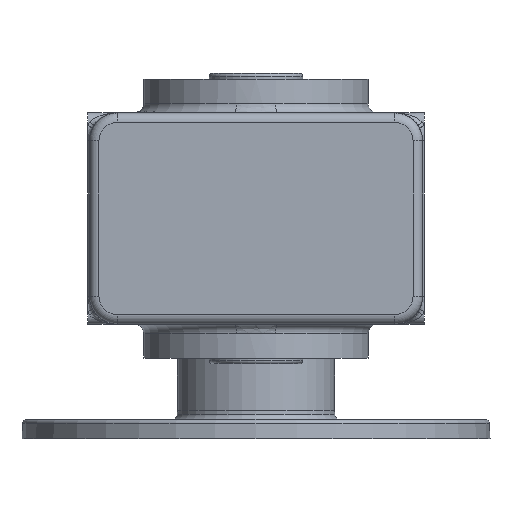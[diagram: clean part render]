
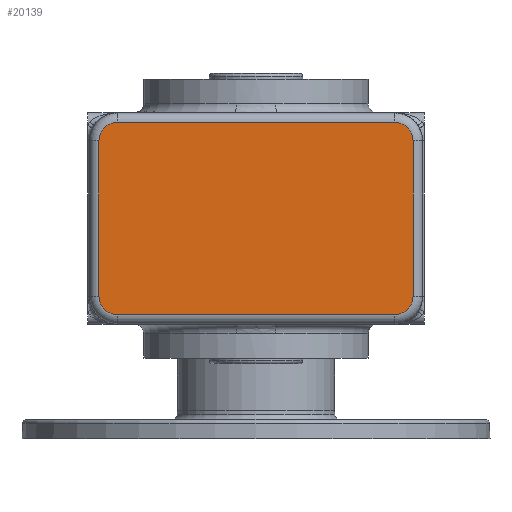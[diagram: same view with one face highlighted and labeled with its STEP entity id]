
A CAD part, front view. The second image highlights one B-rep face of the part: STEP entity #20139.
In plain terms, the highlighted planar face has unit normal (0, -1, 0).
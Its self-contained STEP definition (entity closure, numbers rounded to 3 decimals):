
#12364 = VERTEX_POINT ( 'NONE', #44482 ) ;
#12365 = EDGE_CURVE ( 'NONE', #20090, #12370, #44481, .T. ) ;
#12367 = ORIENTED_EDGE ( 'NONE', *, *, #12368, .T. ) ;
#12368 = EDGE_CURVE ( 'NONE', #12370, #12364, #44534, .T. ) ;
#12370 = VERTEX_POINT ( 'NONE', #44530 ) ;
#12372 = ORIENTED_EDGE ( 'NONE', *, *, #12365, .T. ) ;
#12385 = EDGE_CURVE ( 'NONE', #15885, #15865, #44572, .T. ) ;
#12387 = EDGE_CURVE ( 'NONE', #15865, #20035, #44568, .T. ) ;
#12389 = EDGE_LOOP ( 'NONE', ( #20062, #12372, #12367, #12414, #12400, #15898, #15783, #12390 ) ) ;
#12390 = ORIENTED_EDGE ( 'NONE', *, *, #12387, .T. ) ;
#12398 = EDGE_CURVE ( 'NONE', #12413, #12399, #44558, .T. ) ;
#12399 = VERTEX_POINT ( 'NONE', #44554 ) ;
#12400 = ORIENTED_EDGE ( 'NONE', *, *, #12398, .T. ) ;
#12409 = EDGE_CURVE ( 'NONE', #12364, #12413, #44606, .T. ) ;
#12413 = VERTEX_POINT ( 'NONE', #44601 ) ;
#12414 = ORIENTED_EDGE ( 'NONE', *, *, #12409, .T. ) ;
#15783 = ORIENTED_EDGE ( 'NONE', *, *, #12385, .T. ) ;
#15865 = VERTEX_POINT ( 'NONE', #44654 ) ;
#15885 = VERTEX_POINT ( 'NONE', #44653 ) ;
#15889 = EDGE_CURVE ( 'NONE', #12399, #15885, #44652, .T. ) ;
#15898 = ORIENTED_EDGE ( 'NONE', *, *, #15889, .T. ) ;
#20035 = VERTEX_POINT ( 'NONE', #44753 ) ;
#20062 = ORIENTED_EDGE ( 'NONE', *, *, #20076, .T. ) ;
#20076 = EDGE_CURVE ( 'NONE', #20035, #20090, #44752, .T. ) ;
#20090 = VERTEX_POINT ( 'NONE', #44748 ) ;
#20139 = ADVANCED_FACE ( 'NONE', ( #44747 ), #44746, .T. ) ;
#44478 = DIRECTION ( 'NONE',  ( 0., -1., 0. ) ) ;
#44479 = CARTESIAN_POINT ( 'NONE',  ( 74., -80., 98. ) ) ;
#44480 = AXIS2_PLACEMENT_3D ( 'NONE', #44479, #44478, #44541 ) ;
#44481 = CIRCLE ( 'NONE', #44480, 9.904 ) ;
#44482 = CARTESIAN_POINT ( 'NONE',  ( -74., -80., 107.904 ) ) ;
#44530 = CARTESIAN_POINT ( 'NONE',  ( 74., -80., 107.904 ) ) ;
#44531 = DIRECTION ( 'NONE',  ( -1., 0., 0. ) ) ;
#44532 = VECTOR ( 'NONE', #44531, 1000. ) ;
#44533 = CARTESIAN_POINT ( 'NONE',  ( -74., -80., 107.904 ) ) ;
#44534 = LINE ( 'NONE', #44533, #44532 ) ;
#44541 = DIRECTION ( 'NONE',  ( 0., 0., -1. ) ) ;
#44554 = CARTESIAN_POINT ( 'NONE',  ( -83.904, -80., 15. ) ) ;
#44555 = DIRECTION ( 'NONE',  ( 0., 0., -1. ) ) ;
#44556 = VECTOR ( 'NONE', #44555, 1000. ) ;
#44557 = CARTESIAN_POINT ( 'NONE',  ( -83.904, -80., 15. ) ) ;
#44558 = LINE ( 'NONE', #44557, #44556 ) ;
#44564 = DIRECTION ( 'NONE',  ( 0., 0., -1. ) ) ;
#44565 = DIRECTION ( 'NONE',  ( 0., -1., 0. ) ) ;
#44566 = CARTESIAN_POINT ( 'NONE',  ( 74., -80., 15. ) ) ;
#44567 = AXIS2_PLACEMENT_3D ( 'NONE', #44566, #44565, #44564 ) ;
#44568 = CIRCLE ( 'NONE', #44567, 9.904 ) ;
#44569 = DIRECTION ( 'NONE',  ( 1., 0., 0. ) ) ;
#44570 = VECTOR ( 'NONE', #44569, 1000. ) ;
#44571 = CARTESIAN_POINT ( 'NONE',  ( 74., -80., 5.096 ) ) ;
#44572 = LINE ( 'NONE', #44571, #44570 ) ;
#44601 = CARTESIAN_POINT ( 'NONE',  ( -83.904, -80., 98. ) ) ;
#44602 = DIRECTION ( 'NONE',  ( 0., 0., -1. ) ) ;
#44603 = DIRECTION ( 'NONE',  ( 0., -1., 0. ) ) ;
#44604 = CARTESIAN_POINT ( 'NONE',  ( -74., -80., 98. ) ) ;
#44605 = AXIS2_PLACEMENT_3D ( 'NONE', #44604, #44603, #44602 ) ;
#44606 = CIRCLE ( 'NONE', #44605, 9.904 ) ;
#44648 = DIRECTION ( 'NONE',  ( 0., 0., -1. ) ) ;
#44649 = DIRECTION ( 'NONE',  ( 0., -1., 0. ) ) ;
#44650 = CARTESIAN_POINT ( 'NONE',  ( -74., -80., 15. ) ) ;
#44651 = AXIS2_PLACEMENT_3D ( 'NONE', #44650, #44649, #44648 ) ;
#44652 = CIRCLE ( 'NONE', #44651, 9.904 ) ;
#44653 = CARTESIAN_POINT ( 'NONE',  ( -74., -80., 5.096 ) ) ;
#44654 = CARTESIAN_POINT ( 'NONE',  ( 74., -80., 5.096 ) ) ;
#44742 = DIRECTION ( 'NONE',  ( 0., 0., -1. ) ) ;
#44743 = DIRECTION ( 'NONE',  ( 0., -1., 0. ) ) ;
#44744 = CARTESIAN_POINT ( 'NONE',  ( -74., -80., 15. ) ) ;
#44745 = AXIS2_PLACEMENT_3D ( 'NONE', #44744, #44743, #44742 ) ;
#44746 = PLANE ( 'NONE',  #44745 ) ;
#44747 = FACE_OUTER_BOUND ( 'NONE', #12389, .T. ) ;
#44748 = CARTESIAN_POINT ( 'NONE',  ( 83.904, -80., 98. ) ) ;
#44749 = DIRECTION ( 'NONE',  ( 0., 0., 1. ) ) ;
#44750 = VECTOR ( 'NONE', #44749, 1000. ) ;
#44751 = CARTESIAN_POINT ( 'NONE',  ( 83.904, -80., 98. ) ) ;
#44752 = LINE ( 'NONE', #44751, #44750 ) ;
#44753 = CARTESIAN_POINT ( 'NONE',  ( 83.904, -80., 15. ) ) ;
